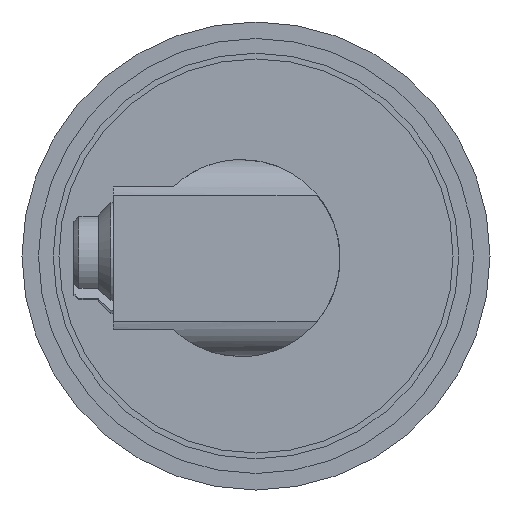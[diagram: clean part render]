
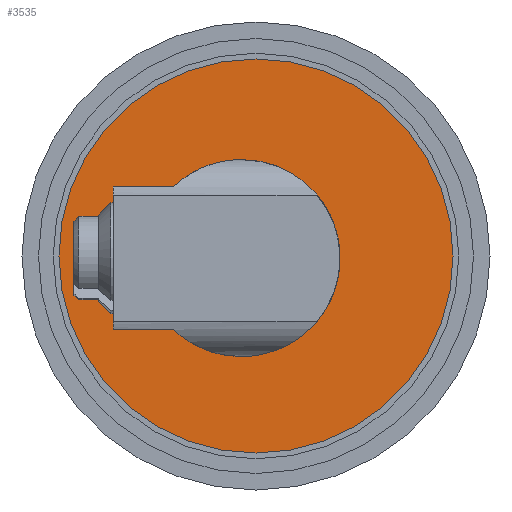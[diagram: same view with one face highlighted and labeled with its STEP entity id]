
A CAD part, left-side view. The second image highlights one B-rep face of the part: STEP entity #3535.
In plain terms, the highlighted planar face has unit normal (-1, 0, 0) as drawn and (0, -1, 0) by its records, which use the part's own axes.
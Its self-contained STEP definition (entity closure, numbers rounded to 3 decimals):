
#105 = AXIS2_PLACEMENT_3D ( 'NONE', #2438, #1055, #2166 ) ;
#250 = VERTEX_POINT ( 'NONE', #1354 ) ;
#388 = ORIENTED_EDGE ( 'NONE', *, *, #500, .F. ) ;
#390 = FACE_BOUND ( 'NONE', #683, .T. ) ;
#500 = EDGE_CURVE ( 'NONE', #250, #2030, #1005, .T. ) ;
#636 = DIRECTION ( 'NONE',  ( 0., 1., 0. ) ) ;
#637 = VERTEX_POINT ( 'NONE', #1912 ) ;
#683 = EDGE_LOOP ( 'NONE', ( #2544, #2624 ) ) ;
#802 = DIRECTION ( 'NONE',  ( 0., -1., 0. ) ) ;
#1005 = CIRCLE ( 'NONE', #2060, 4. ) ;
#1009 = CARTESIAN_POINT ( 'NONE',  ( 0., 0., -4. ) ) ;
#1013 = DIRECTION ( 'NONE',  ( 0., 0., 1. ) ) ;
#1055 = DIRECTION ( 'NONE',  ( 0., -1., 0. ) ) ;
#1072 = EDGE_CURVE ( 'NONE', #637, #1260, #2106, .T. ) ;
#1183 = CARTESIAN_POINT ( 'NONE',  ( 0., 0., 0. ) ) ;
#1260 = VERTEX_POINT ( 'NONE', #1998 ) ;
#1354 = CARTESIAN_POINT ( 'NONE',  ( 0., 0., 4. ) ) ;
#1459 = PLANE ( 'NONE',  #2507 ) ;
#1521 = EDGE_CURVE ( 'NONE', #2030, #250, #2608, .T. ) ;
#1832 = ORIENTED_EDGE ( 'NONE', *, *, #1521, .F. ) ;
#1850 = AXIS2_PLACEMENT_3D ( 'NONE', #2959, #3509, #2151 ) ;
#1912 = CARTESIAN_POINT ( 'NONE',  ( 0., 0., -1.25 ) ) ;
#1998 = CARTESIAN_POINT ( 'NONE',  ( 0., 0., 1.25 ) ) ;
#2030 = VERTEX_POINT ( 'NONE', #1009 ) ;
#2060 = AXIS2_PLACEMENT_3D ( 'NONE', #3544, #3229, #1013 ) ;
#2106 = CIRCLE ( 'NONE', #3034, 1.25 ) ;
#2151 = DIRECTION ( 'NONE',  ( 0., 0., 1. ) ) ;
#2166 = DIRECTION ( 'NONE',  ( 0., 0., -1. ) ) ;
#2327 = CIRCLE ( 'NONE', #105, 1.25 ) ;
#2339 = FACE_OUTER_BOUND ( 'NONE', #3603, .T. ) ;
#2423 = DIRECTION ( 'NONE',  ( 0., 0., -1. ) ) ;
#2438 = CARTESIAN_POINT ( 'NONE',  ( 0., 0., 0. ) ) ;
#2445 = CARTESIAN_POINT ( 'NONE',  ( 0., 0., 0. ) ) ;
#2507 = AXIS2_PLACEMENT_3D ( 'NONE', #1183, #636, #2565 ) ;
#2544 = ORIENTED_EDGE ( 'NONE', *, *, #3263, .F. ) ;
#2565 = DIRECTION ( 'NONE',  ( 0., 0., 1. ) ) ;
#2608 = CIRCLE ( 'NONE', #1850, 4. ) ;
#2624 = ORIENTED_EDGE ( 'NONE', *, *, #1072, .F. ) ;
#2959 = CARTESIAN_POINT ( 'NONE',  ( 0., 0., 0. ) ) ;
#3034 = AXIS2_PLACEMENT_3D ( 'NONE', #2445, #802, #2423 ) ;
#3229 = DIRECTION ( 'NONE',  ( 0., 1., 0. ) ) ;
#3263 = EDGE_CURVE ( 'NONE', #1260, #637, #2327, .T. ) ;
#3509 = DIRECTION ( 'NONE',  ( 0., 1., 0. ) ) ;
#3535 = ADVANCED_FACE ( 'NONE', ( #390, #2339 ), #1459, .F. ) ;
#3544 = CARTESIAN_POINT ( 'NONE',  ( 0., 0., 0. ) ) ;
#3603 = EDGE_LOOP ( 'NONE', ( #1832, #388 ) ) ;
